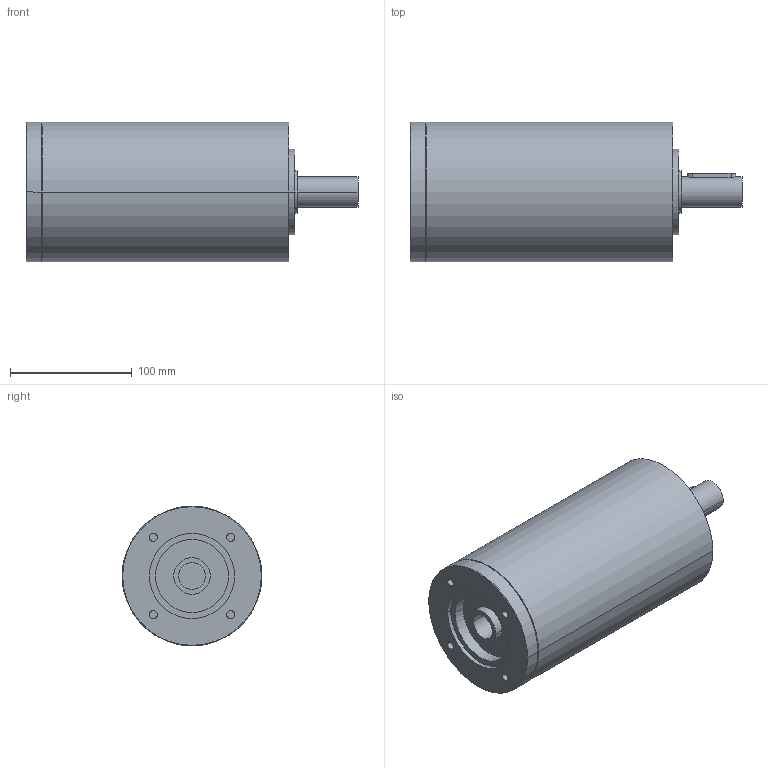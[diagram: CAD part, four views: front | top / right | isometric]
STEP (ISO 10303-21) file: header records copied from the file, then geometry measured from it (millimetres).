
FILE_DESCRIPTION(('CoCreate Modeling STEP Export'),'2;1');
FILE_NAME('GPR125_ig-48-64-80-100-140-196-245-343_25_B14_22_P17.stp','2014-08-26T14:22:16',(''),(''),'CoCreate Modeling STEP processor for AP214 (Solid Model)','CoCreate Modeling 16.00C 25-Feb-2009 (C) Parametric Technology GmbH','');
FILE_SCHEMA(('AUTOMOTIVE_DESIGN { 1 0 10303 214 1 1 1 1 }'));
Length unit declared in the file: millimetre
Products named in the file (2): GPR125_ig-48-64-80-100-140-196-245-343_25_B14_22_P17
Assembly tree (1 placements, depth 2):
  GPR125_ig-48-64-80-100-140-196-245-343_25_B14_22_P17
    GPR125_ig-48-64-80-100-140-196-245-343_25_B14_22_P17
Bounding box: 273 x 115 x 115 mm (x, y, z)
Volume: 2226585.1 mm3; surface area: 115251.1 mm2
Topology: 1 solids, 1 shells, 67 faces, 164 edges, 114 vertices
Faces by surface type: cylinder 38, plane 21, cone 8
Entity records: 1690 total; most frequent: ORIENTED_EDGE 324, CARTESIAN_POINT 318, DIRECTION 220, EDGE_CURVE 162, VERTEX_POINT 114, AXIS2_PLACEMENT_3D 84, EDGE_LOOP 84, FACE_OUTER_BOUND 67
